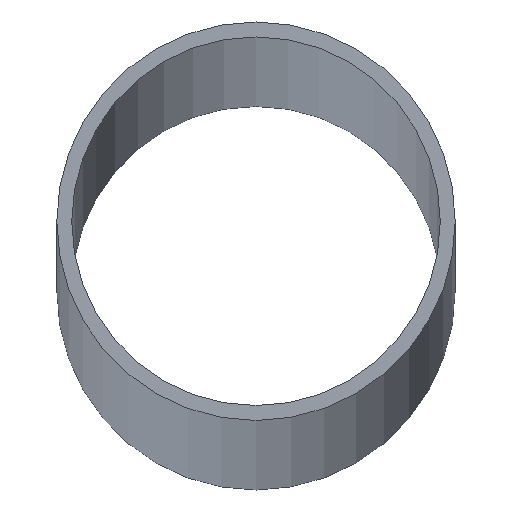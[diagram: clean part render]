
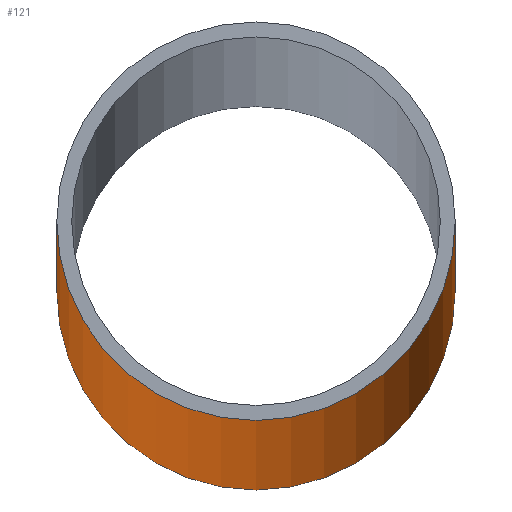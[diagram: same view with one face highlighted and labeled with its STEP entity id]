
A CAD part, top view. The second image highlights one B-rep face of the part: STEP entity #121.
In plain terms, the highlighted cylindrical face has radius 20 mm (diameter 40 mm), a partial arc.
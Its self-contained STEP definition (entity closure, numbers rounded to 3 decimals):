
#3 = AXIS2_PLACEMENT_3D ( 'NONE', #106, #107, #81 ) ;
#4 = AXIS2_PLACEMENT_3D ( 'NONE', #53, #86, #109 ) ;
#11 = EDGE_CURVE ( 'NONE', #133, #155, #193, .T. ) ;
#15 = EDGE_CURVE ( 'NONE', #126, #150, #167, .T. ) ;
#16 = EDGE_CURVE ( 'NONE', #126, #133, #192, .T. ) ;
#17 = EDGE_CURVE ( 'NONE', #150, #155, #176, .T. ) ;
#25 = CARTESIAN_POINT ( 'NONE',  ( 20., 0., 0. ) ) ;
#47 = CARTESIAN_POINT ( 'NONE',  ( 20., 0., 4000. ) ) ;
#48 = CARTESIAN_POINT ( 'NONE',  ( -20., 0., 0. ) ) ;
#50 = CARTESIAN_POINT ( 'NONE',  ( -20., 0., 4000. ) ) ;
#53 = CARTESIAN_POINT ( 'NONE',  ( 0., 0., 4000. ) ) ;
#59 = CARTESIAN_POINT ( 'NONE',  ( 0., 0., 4000. ) ) ;
#62 = DIRECTION ( 'NONE',  ( 0., 0., -1. ) ) ;
#64 = DIRECTION ( 'NONE',  ( -1., 0., 0. ) ) ;
#75 = DIRECTION ( 'NONE',  ( 0., 0., -1. ) ) ;
#81 = DIRECTION ( 'NONE',  ( -1., 0., 0. ) ) ;
#86 = DIRECTION ( 'NONE',  ( 0., 0., 1. ) ) ;
#93 = CARTESIAN_POINT ( 'NONE',  ( 20., 0., 4000. ) ) ;
#98 = CARTESIAN_POINT ( 'NONE',  ( -20., 0., 4000. ) ) ;
#99 = DIRECTION ( 'NONE',  ( 0., 0., -1. ) ) ;
#106 = CARTESIAN_POINT ( 'NONE',  ( 0., 0., 0. ) ) ;
#107 = DIRECTION ( 'NONE',  ( 0., 0., 1. ) ) ;
#109 = DIRECTION ( 'NONE',  ( -1., 0., 0. ) ) ;
#121 = ADVANCED_FACE ( 'NONE', ( #195 ), #146, .T. ) ;
#126 = VERTEX_POINT ( 'NONE', #50 ) ;
#130 = EDGE_LOOP ( 'NONE', ( #153, #177, #204, #191 ) ) ;
#133 = VERTEX_POINT ( 'NONE', #47 ) ;
#146 = CYLINDRICAL_SURFACE ( 'NONE', #215, 20. ) ;
#150 = VERTEX_POINT ( 'NONE', #48 ) ;
#153 = ORIENTED_EDGE ( 'NONE', *, *, #11, .F. ) ;
#155 = VERTEX_POINT ( 'NONE', #25 ) ;
#164 = VECTOR ( 'NONE', #62, 1000. ) ;
#167 = LINE ( 'NONE', #98, #185 ) ;
#176 = CIRCLE ( 'NONE', #3, 20. ) ;
#177 = ORIENTED_EDGE ( 'NONE', *, *, #16, .F. ) ;
#185 = VECTOR ( 'NONE', #99, 1000. ) ;
#191 = ORIENTED_EDGE ( 'NONE', *, *, #17, .T. ) ;
#192 = CIRCLE ( 'NONE', #4, 20. ) ;
#193 = LINE ( 'NONE', #93, #164 ) ;
#195 = FACE_OUTER_BOUND ( 'NONE', #130, .T. ) ;
#204 = ORIENTED_EDGE ( 'NONE', *, *, #15, .T. ) ;
#215 = AXIS2_PLACEMENT_3D ( 'NONE', #59, #75, #64 ) ;
